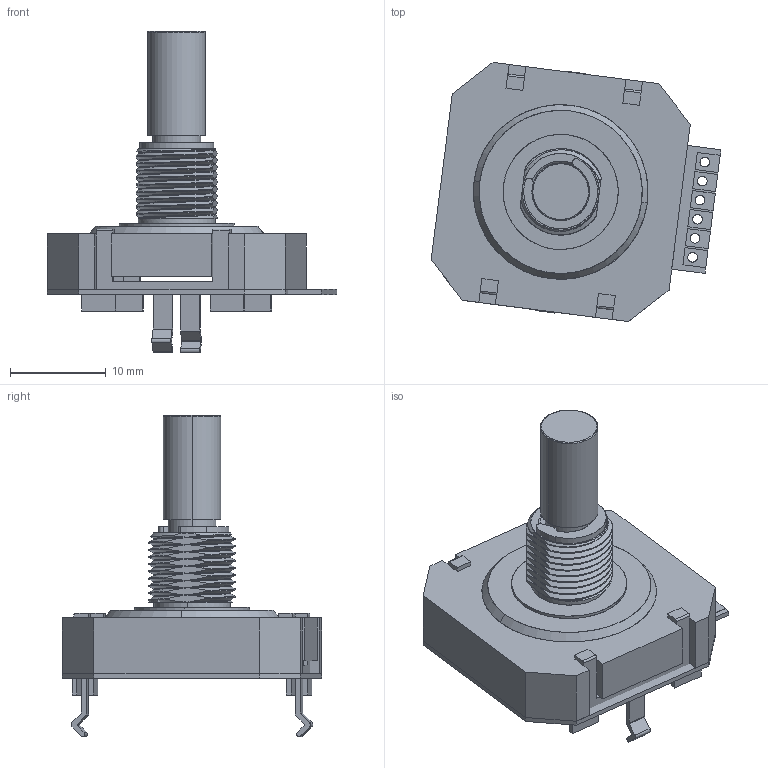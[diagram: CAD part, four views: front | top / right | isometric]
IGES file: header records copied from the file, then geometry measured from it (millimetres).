
Start section: SolidWorks IGES file using analytic representation for surfaces
Global section: file name: C:\Dokumente und Einstellungen\GeorgA\Desktop\Postkasten\Leica\MRXCT50.IGS; native system: SolidWorks 2007; preprocessor: SolidWorks 2007; author: GeorgA; date: 111209.155725; units: millimetre
Bounding box: 30.2 x 27.01 x 33.48 mm (x, y, z)
Surface area: 4592.4 mm2 (no closed solid volume)
Topology: 0 solids, 0 shells, 348 faces, 3200 edges, 3200 vertices
Faces by surface type: bspline 271, revolution 77
